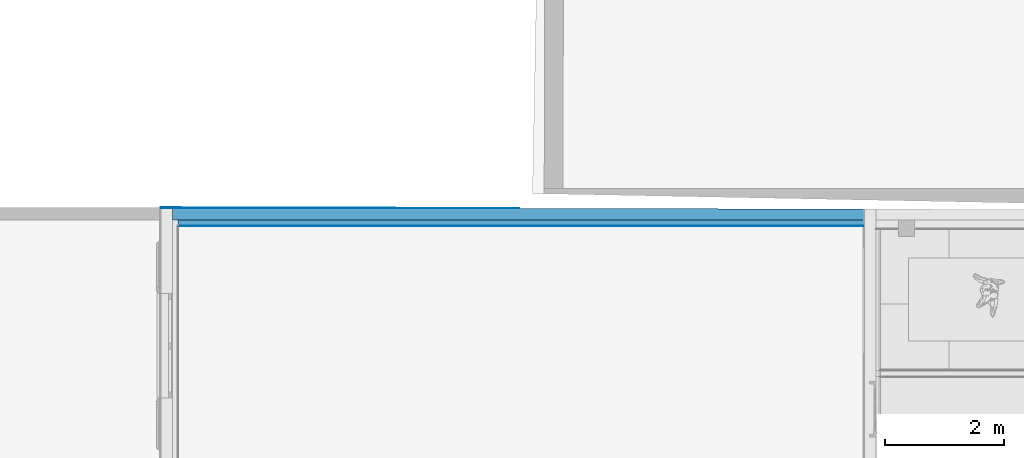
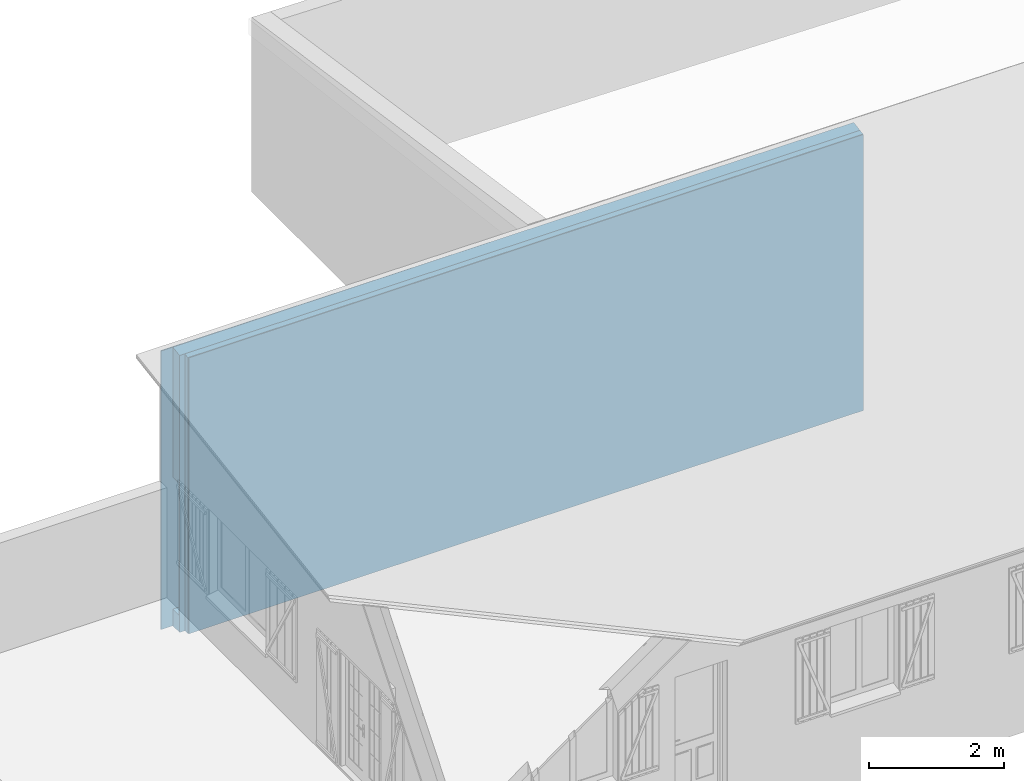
# One storey, part 8 of 24: 4 building element parts, 1 element without a shape of its own.
"""IFC2X3 building model written with IfcOpenShell, lengths in metres."""

from ifc_helpers import new_model, entity, si_unit, converted_unit, derived_unit, money_unit, direction, frame, origin_with_axes, place, context, subcontext, project, spatial, polyline, outline, extrude, boolean, faceted_brep, material, type_object, element, aggregate, save


model = new_model("IFC2X3")

# Units and contexts
model_context = context("Model", 3, precision=1e-05, world=origin_with_axes(), true_north=direction((0.0, 1.0)))
body_context = subcontext(model_context, "Body", "Model", "MODEL_VIEW")
ifc_project = project(units=[si_unit("LENGTHUNIT", "METRE"), si_unit("AREAUNIT", "SQUARE_METRE"), si_unit("VOLUMEUNIT", "CUBIC_METRE"), converted_unit("PLANEANGLEUNIT", "DEGREE", entity("IfcPlaneAngleMeasure", 0.0174532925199), si_unit("PLANEANGLEUNIT", "RADIAN"), dimensions=[0, 0, 0, 0, 0, 0, 0]), si_unit("SOLIDANGLEUNIT", "STERADIAN"), money_unit("CHF"), converted_unit("TIMEUNIT", "Year", entity("IfcTimeMeasure", 31556926.0), si_unit("TIMEUNIT", "SECOND"), dimensions=[0, 0, 1, 0, 0, 0, 0]), si_unit("MASSUNIT", "GRAM", prefix="KILO"), si_unit("THERMODYNAMICTEMPERATUREUNIT", "DEGREE_CELSIUS"), si_unit("LUMINOUSINTENSITYUNIT", "LUMEN"), si_unit("ENERGYUNIT", "JOULE", prefix="MEGA"), derived_unit("THERMALCONDUCTANCEUNIT", [(si_unit("POWERUNIT", "WATT"), 1), (si_unit("LENGTHUNIT", "METRE"), -1), (si_unit("THERMODYNAMICTEMPERATUREUNIT", "KELVIN"), -1)]), derived_unit("SPECIFICHEATCAPACITYUNIT", [(si_unit("ENERGYUNIT", "JOULE"), 1), (si_unit("MASSUNIT", "GRAM", prefix="KILO"), -1), (si_unit("THERMODYNAMICTEMPERATUREUNIT", "KELVIN"), -1)]), derived_unit("MASSDENSITYUNIT", [(si_unit("MASSUNIT", "GRAM", prefix="KILO"), 1), (si_unit("VOLUMEUNIT", "CUBIC_METRE"), -1)])], contexts=[model_context])

# Site, building, storey
site_placement = place(None, origin_with_axes())
site = spatial("IfcSite", under=ifc_project, at=site_placement, Name="Site", CompositionType="ELEMENT")
building_placement = place(site_placement, origin_with_axes())
building = spatial("IfcBuilding", under=site, at=building_placement, Name="Bâtiment", CompositionType="ELEMENT")
storey_placement = place(building_placement, origin_with_axes())
storey = spatial("IfcBuildingStorey", under=building, at=storey_placement, Name="Rez-de-chaussée", CompositionType="ELEMENT", Elevation=0.0)

# Wall, building element parts
wall_type = type_object("IfcWallType", Name="0.1 - Mur ext: revét ext + maçonnerie + doublage 10cm 315", PredefinedType="ELEMENTEDWALL")
wall_placement = place(storey_placement, frame((11.5671417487, 16.4079346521, -0.6), z_axis=(0.0, 0.0, 1.0), x_axis=(1.0, 0.0, 0.0)))
wall = element("IfcWall", 1, at=wall_placement, inside=storey, type_object=wall_type, Name="MUR_EXT-005", ObjectType="ELEMENTEDWALL")
ifc_material_1 = material(Name="Finition int - Plaque de plâtre")
building_element_part_1_placement = place(wall_placement, origin_with_axes())
building_element_part_1 = element("IfcBuildingElementPart", 2, at=building_element_part_1_placement, material=ifc_material_1, Name="Finition int - Plaque de plâtre", context=body_context, shape_type="CSG", body=[
    boolean("DIFFERENCE", boolean("DIFFERENCE", boolean("DIFFERENCE", boolean("DIFFERENCE", extrude(outline(polyline([(0.0, -0.315), (11.82, -0.315), (11.82, -0.305), (0.0, -0.305), (0.0, -0.315)])), origin_with_axes(), (0.0, 0.0, 1.0), 5.5967588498), faceted_brep([(11.82, -0.315, 4.9767999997), (11.82, -0.305, 4.9783999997), (11.82, -0.305, 5.5967588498), (11.82, -0.315, 5.5967588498), (0.315, -0.315, 4.9767999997), (0.315, -0.305, 4.9783999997), (0.315, -0.305, 0.0), (0.0, -0.305, 0.0), (0.0, -0.305, 5.5967588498), (0.0, -0.315, 5.5967588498), (0.0, -0.315, 0.0), (0.315, -0.315, 0.0)], [[[0, 1, 2, 3]], [[1, 0, 4, 5]], [[5, 6, 7, 8, 2, 1]], [[8, 9, 3, 2]], [[4, 0, 3, 9, 10, 11]], [[6, 5, 4, 11]], [[6, 11, 10, 7]], [[8, 7, 10, 9]]])), faceted_brep([(11.82, -0.305, 4.9783999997), (11.82, -0.215, 4.9927999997), (11.82, -0.215, 5.5967588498), (11.82, -0.305, 5.5967588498), (0.305, -0.305, 4.9783999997), (0.305, -0.215, 4.9927999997), (0.305, -0.215, 0.0), (0.0, -0.215, 0.0), (0.0, -0.215, 5.5967588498), (0.0, -0.305, 5.5967588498), (0.0, -0.305, 0.0), (0.305, -0.305, 0.0)], [[[0, 1, 2, 3]], [[1, 0, 4, 5]], [[5, 6, 7, 8, 2, 1]], [[8, 9, 3, 2]], [[4, 0, 3, 9, 10, 11]], [[6, 5, 4, 11]], [[6, 11, 10, 7]], [[8, 7, 10, 9]]])), faceted_brep([(11.82, -0.0284796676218, 5.02264325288), (11.82, -0.0284796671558, 0.0), (11.82, -0.015, 0.0), (11.82, -0.015, 5.5967588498), (11.82, -0.215, 5.5967588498), (11.82, -0.215, 4.9927999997), (6.03617069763, -0.015, 5.0247999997), (6.03617080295, -0.015, 0.0), (0.215, -0.015, 0.3), (0.215, -0.015, 0.0), (0.0, -0.015, 0.0), (0.0, -0.015, 5.5967588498), (0.215, -0.015, 5.0247999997), (0.215, -0.015, 2.68277264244), (0.414999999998, -0.015, 2.68277264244), (0.41499210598, -0.015, 0.3), (0.0, -0.215, 5.5967588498), (0.215, -0.215, 4.9927999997), (0.0, -0.215, 0.0), (0.215, -0.215, 0.0), (0.215, -0.194831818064, 0.3), (0.215, -0.194831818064, 2.68277264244), (0.414999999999, -0.194675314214, 2.68277264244), (0.414996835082, -0.194675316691, 0.3)], [[[0, 1, 2, 3, 4, 5]], [[1, 0, 6, 7]], [[1, 7, 2]], [[8, 9, 10, 11, 3, 2, 7, 6, 12, 13, 14, 15]], [[11, 16, 4, 3]], [[17, 5, 4, 16, 18, 19]], [[0, 5, 17, 12, 6]], [[13, 12, 17, 19, 9, 8, 20, 21]], [[9, 19, 18, 10]], [[11, 10, 18, 16]], [[13, 21, 22, 14]], [[14, 22, 23, 15]], [[15, 23, 20, 8]], [[22, 21, 20, 23]]])), faceted_brep([(0.015, -0.015, 5.0247999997), (6.03617069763, -0.015, 5.0247999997), (6.03617080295, -0.015, 0.0), (11.82, -0.015, 0.0), (11.82, -0.015, 5.5967588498), (0.0, -0.015, 5.5967588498), (0.0, -0.015, 0.0), (0.015, -0.015, 0.0), (0.015, -0.015, 0.3), (0.41499210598, -0.015, 0.3), (0.414999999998, -0.015, 2.68277264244), (0.015, -0.015, 2.68277264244), (0.015, -0.000967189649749, 5.02704524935), (0.015, -0.000967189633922, 0.0), (0.0, 0.0, 0.0), (11.82, 0.0, 0.0), (11.82, 0.0, 5.5967588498), (0.0, 0.0, 5.5967588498), (0.015, -0.0149882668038, 2.68277264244), (0.015, -0.0149882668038, 0.3), (0.414992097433, -0.014675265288, 0.3), (0.414999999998, -0.0146752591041, 2.68277264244)], [[[0, 1, 2, 3, 4, 5, 6, 7, 8, 9, 10, 11]], [[1, 0, 12]], [[13, 2, 1, 12]], [[13, 7, 6, 14, 15, 3, 2]], [[4, 3, 15, 16]], [[17, 5, 4, 16]], [[17, 14, 6, 5]], [[7, 13, 12, 0, 11, 18, 19, 8]], [[8, 19, 20, 9]], [[9, 20, 21, 10]], [[11, 10, 21, 18]], [[16, 15, 14, 17]], [[18, 21, 20, 19]]])),
])
ifc_material_2 = material(Name="Isolation - Laine de verre")
building_element_part_2_placement = place(wall_placement, origin_with_axes())
building_element_part_2 = element("IfcBuildingElementPart", 3, at=building_element_part_2_placement, material=ifc_material_2, Name="Isolation - Laine de verre", context=body_context, shape_type="CSG", body=[
    boolean("DIFFERENCE", boolean("DIFFERENCE", boolean("DIFFERENCE", boolean("DIFFERENCE", extrude(outline(polyline([(0.0, -0.305), (11.82, -0.305), (11.82, -0.215), (0.0, -0.215), (0.0, -0.305)])), origin_with_axes(), (0.0, 0.0, 1.0), 5.5967588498), faceted_brep([(11.82, -0.315, 4.9767999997), (11.82, -0.305, 4.9783999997), (11.82, -0.305, 5.5967588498), (11.82, -0.315, 5.5967588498), (0.315, -0.315, 4.9767999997), (0.315, -0.305, 4.9783999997), (0.315, -0.305, 0.0), (0.0, -0.305, 0.0), (0.0, -0.305, 5.5967588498), (0.0, -0.315, 5.5967588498), (0.0, -0.315, 0.0), (0.315, -0.315, 0.0)], [[[0, 1, 2, 3]], [[1, 0, 4, 5]], [[5, 6, 7, 8, 2, 1]], [[8, 9, 3, 2]], [[4, 0, 3, 9, 10, 11]], [[6, 5, 4, 11]], [[6, 11, 10, 7]], [[8, 7, 10, 9]]])), faceted_brep([(11.82, -0.305, 4.9783999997), (11.82, -0.215, 4.9927999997), (11.82, -0.215, 5.5967588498), (11.82, -0.305, 5.5967588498), (0.305, -0.305, 4.9783999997), (0.305, -0.215, 4.9927999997), (0.305, -0.215, 0.0), (0.0, -0.215, 0.0), (0.0, -0.215, 5.5967588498), (0.0, -0.305, 5.5967588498), (0.0, -0.305, 0.0), (0.305, -0.305, 0.0)], [[[0, 1, 2, 3]], [[1, 0, 4, 5]], [[5, 6, 7, 8, 2, 1]], [[8, 9, 3, 2]], [[4, 0, 3, 9, 10, 11]], [[6, 5, 4, 11]], [[6, 11, 10, 7]], [[8, 7, 10, 9]]])), faceted_brep([(11.82, -0.0284796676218, 5.02264325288), (11.82, -0.0284796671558, 0.0), (11.82, -0.015, 0.0), (11.82, -0.015, 5.5967588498), (11.82, -0.215, 5.5967588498), (11.82, -0.215, 4.9927999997), (6.03617069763, -0.015, 5.0247999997), (6.03617080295, -0.015, 0.0), (0.215, -0.015, 0.3), (0.215, -0.015, 0.0), (0.0, -0.015, 0.0), (0.0, -0.015, 5.5967588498), (0.215, -0.015, 5.0247999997), (0.215, -0.015, 2.68277264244), (0.414999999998, -0.015, 2.68277264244), (0.41499210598, -0.015, 0.3), (0.0, -0.215, 5.5967588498), (0.215, -0.215, 4.9927999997), (0.0, -0.215, 0.0), (0.215, -0.215, 0.0), (0.215, -0.194831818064, 0.3), (0.215, -0.194831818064, 2.68277264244), (0.414999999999, -0.194675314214, 2.68277264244), (0.414996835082, -0.194675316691, 0.3)], [[[0, 1, 2, 3, 4, 5]], [[1, 0, 6, 7]], [[1, 7, 2]], [[8, 9, 10, 11, 3, 2, 7, 6, 12, 13, 14, 15]], [[11, 16, 4, 3]], [[17, 5, 4, 16, 18, 19]], [[0, 5, 17, 12, 6]], [[13, 12, 17, 19, 9, 8, 20, 21]], [[9, 19, 18, 10]], [[11, 10, 18, 16]], [[13, 21, 22, 14]], [[14, 22, 23, 15]], [[15, 23, 20, 8]], [[22, 21, 20, 23]]])), faceted_brep([(0.015, -0.015, 5.0247999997), (6.03617069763, -0.015, 5.0247999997), (6.03617080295, -0.015, 0.0), (11.82, -0.015, 0.0), (11.82, -0.015, 5.5967588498), (0.0, -0.015, 5.5967588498), (0.0, -0.015, 0.0), (0.015, -0.015, 0.0), (0.015, -0.015, 0.3), (0.41499210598, -0.015, 0.3), (0.414999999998, -0.015, 2.68277264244), (0.015, -0.015, 2.68277264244), (0.015, -0.000967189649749, 5.02704524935), (0.015, -0.000967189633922, 0.0), (0.0, 0.0, 0.0), (11.82, 0.0, 0.0), (11.82, 0.0, 5.5967588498), (0.0, 0.0, 5.5967588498), (0.015, -0.0149882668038, 2.68277264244), (0.015, -0.0149882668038, 0.3), (0.414992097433, -0.014675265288, 0.3), (0.414999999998, -0.0146752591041, 2.68277264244)], [[[0, 1, 2, 3, 4, 5, 6, 7, 8, 9, 10, 11]], [[1, 0, 12]], [[13, 2, 1, 12]], [[13, 7, 6, 14, 15, 3, 2]], [[4, 3, 15, 16]], [[17, 5, 4, 16]], [[17, 14, 6, 5]], [[7, 13, 12, 0, 11, 18, 19, 8]], [[8, 19, 20, 9]], [[9, 20, 21, 10]], [[11, 10, 21, 18]], [[16, 15, 14, 17]], [[18, 21, 20, 19]]])),
])
ifc_material_3 = material(Name="Brique ciment (extérieur)")
building_element_part_3_placement = place(wall_placement, origin_with_axes())
building_element_part_3 = element("IfcBuildingElementPart", 4, at=building_element_part_3_placement, material=ifc_material_3, Name="Brique ciment (extérieur)", context=body_context, shape_type="CSG", body=[
    boolean("DIFFERENCE", boolean("DIFFERENCE", boolean("DIFFERENCE", boolean("DIFFERENCE", extrude(outline(polyline([(0.0, -0.215), (11.82, -0.215), (11.82, -0.015), (0.0, -0.015), (0.0, -0.215)])), origin_with_axes(), (0.0, 0.0, 1.0), 5.5967588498), faceted_brep([(11.82, -0.315, 4.9767999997), (11.82, -0.305, 4.9783999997), (11.82, -0.305, 5.5967588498), (11.82, -0.315, 5.5967588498), (0.315, -0.315, 4.9767999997), (0.315, -0.305, 4.9783999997), (0.315, -0.305, 0.0), (0.0, -0.305, 0.0), (0.0, -0.305, 5.5967588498), (0.0, -0.315, 5.5967588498), (0.0, -0.315, 0.0), (0.315, -0.315, 0.0)], [[[0, 1, 2, 3]], [[1, 0, 4, 5]], [[5, 6, 7, 8, 2, 1]], [[8, 9, 3, 2]], [[4, 0, 3, 9, 10, 11]], [[6, 5, 4, 11]], [[6, 11, 10, 7]], [[8, 7, 10, 9]]])), faceted_brep([(11.82, -0.305, 4.9783999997), (11.82, -0.215, 4.9927999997), (11.82, -0.215, 5.5967588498), (11.82, -0.305, 5.5967588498), (0.305, -0.305, 4.9783999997), (0.305, -0.215, 4.9927999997), (0.305, -0.215, 0.0), (0.0, -0.215, 0.0), (0.0, -0.215, 5.5967588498), (0.0, -0.305, 5.5967588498), (0.0, -0.305, 0.0), (0.305, -0.305, 0.0)], [[[0, 1, 2, 3]], [[1, 0, 4, 5]], [[5, 6, 7, 8, 2, 1]], [[8, 9, 3, 2]], [[4, 0, 3, 9, 10, 11]], [[6, 5, 4, 11]], [[6, 11, 10, 7]], [[8, 7, 10, 9]]])), faceted_brep([(11.82, -0.0284796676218, 5.02264325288), (11.82, -0.0284796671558, 0.0), (11.82, -0.015, 0.0), (11.82, -0.015, 5.5967588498), (11.82, -0.215, 5.5967588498), (11.82, -0.215, 4.9927999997), (6.03617069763, -0.015, 5.0247999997), (6.03617080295, -0.015, 0.0), (0.215, -0.015, 0.3), (0.215, -0.015, 0.0), (0.0, -0.015, 0.0), (0.0, -0.015, 5.5967588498), (0.215, -0.015, 5.0247999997), (0.215, -0.015, 2.68277264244), (0.414999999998, -0.015, 2.68277264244), (0.41499210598, -0.015, 0.3), (0.0, -0.215, 5.5967588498), (0.215, -0.215, 4.9927999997), (0.0, -0.215, 0.0), (0.215, -0.215, 0.0), (0.215, -0.194831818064, 0.3), (0.215, -0.194831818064, 2.68277264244), (0.414999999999, -0.194675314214, 2.68277264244), (0.414996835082, -0.194675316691, 0.3)], [[[0, 1, 2, 3, 4, 5]], [[1, 0, 6, 7]], [[1, 7, 2]], [[8, 9, 10, 11, 3, 2, 7, 6, 12, 13, 14, 15]], [[11, 16, 4, 3]], [[17, 5, 4, 16, 18, 19]], [[0, 5, 17, 12, 6]], [[13, 12, 17, 19, 9, 8, 20, 21]], [[9, 19, 18, 10]], [[11, 10, 18, 16]], [[13, 21, 22, 14]], [[14, 22, 23, 15]], [[15, 23, 20, 8]], [[22, 21, 20, 23]]])), faceted_brep([(0.015, -0.015, 5.0247999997), (6.03617069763, -0.015, 5.0247999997), (6.03617080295, -0.015, 0.0), (11.82, -0.015, 0.0), (11.82, -0.015, 5.5967588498), (0.0, -0.015, 5.5967588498), (0.0, -0.015, 0.0), (0.015, -0.015, 0.0), (0.015, -0.015, 0.3), (0.41499210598, -0.015, 0.3), (0.414999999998, -0.015, 2.68277264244), (0.015, -0.015, 2.68277264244), (0.015, -0.000967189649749, 5.02704524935), (0.015, -0.000967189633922, 0.0), (0.0, 0.0, 0.0), (11.82, 0.0, 0.0), (11.82, 0.0, 5.5967588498), (0.0, 0.0, 5.5967588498), (0.015, -0.0149882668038, 2.68277264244), (0.015, -0.0149882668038, 0.3), (0.414992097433, -0.014675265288, 0.3), (0.414999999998, -0.0146752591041, 2.68277264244)], [[[0, 1, 2, 3, 4, 5, 6, 7, 8, 9, 10, 11]], [[1, 0, 12]], [[13, 2, 1, 12]], [[13, 7, 6, 14, 15, 3, 2]], [[4, 3, 15, 16]], [[17, 5, 4, 16]], [[17, 14, 6, 5]], [[7, 13, 12, 0, 11, 18, 19, 8]], [[8, 19, 20, 9]], [[9, 20, 21, 10]], [[11, 10, 21, 18]], [[16, 15, 14, 17]], [[18, 21, 20, 19]]])),
])
ifc_material_4 = material(Name="Finition ext - Crépis")
building_element_part_4_placement = place(wall_placement, origin_with_axes())
building_element_part_4 = element("IfcBuildingElementPart", 5, at=building_element_part_4_placement, material=ifc_material_4, Name="Finition ext - Crépis", context=body_context, shape_type="CSG", body=[
    boolean("DIFFERENCE", boolean("DIFFERENCE", boolean("DIFFERENCE", boolean("DIFFERENCE", extrude(outline(polyline([(0.0, -0.015), (11.82, -0.015), (11.82, 0.0), (0.0, 0.0), (0.0, -0.015)])), origin_with_axes(), (0.0, 0.0, 1.0), 5.5967588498), faceted_brep([(11.82, -0.315, 4.9767999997), (11.82, -0.305, 4.9783999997), (11.82, -0.305, 5.5967588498), (11.82, -0.315, 5.5967588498), (0.315, -0.315, 4.9767999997), (0.315, -0.305, 4.9783999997), (0.315, -0.305, 0.0), (0.0, -0.305, 0.0), (0.0, -0.305, 5.5967588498), (0.0, -0.315, 5.5967588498), (0.0, -0.315, 0.0), (0.315, -0.315, 0.0)], [[[0, 1, 2, 3]], [[1, 0, 4, 5]], [[5, 6, 7, 8, 2, 1]], [[8, 9, 3, 2]], [[4, 0, 3, 9, 10, 11]], [[6, 5, 4, 11]], [[6, 11, 10, 7]], [[8, 7, 10, 9]]])), faceted_brep([(11.82, -0.305, 4.9783999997), (11.82, -0.215, 4.9927999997), (11.82, -0.215, 5.5967588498), (11.82, -0.305, 5.5967588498), (0.305, -0.305, 4.9783999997), (0.305, -0.215, 4.9927999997), (0.305, -0.215, 0.0), (0.0, -0.215, 0.0), (0.0, -0.215, 5.5967588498), (0.0, -0.305, 5.5967588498), (0.0, -0.305, 0.0), (0.305, -0.305, 0.0)], [[[0, 1, 2, 3]], [[1, 0, 4, 5]], [[5, 6, 7, 8, 2, 1]], [[8, 9, 3, 2]], [[4, 0, 3, 9, 10, 11]], [[6, 5, 4, 11]], [[6, 11, 10, 7]], [[8, 7, 10, 9]]])), faceted_brep([(11.82, -0.0284796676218, 5.02264325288), (11.82, -0.0284796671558, 0.0), (11.82, -0.015, 0.0), (11.82, -0.015, 5.5967588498), (11.82, -0.215, 5.5967588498), (11.82, -0.215, 4.9927999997), (6.03617069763, -0.015, 5.0247999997), (6.03617080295, -0.015, 0.0), (0.215, -0.015, 0.3), (0.215, -0.015, 0.0), (0.0, -0.015, 0.0), (0.0, -0.015, 5.5967588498), (0.215, -0.015, 5.0247999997), (0.215, -0.015, 2.68277264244), (0.414999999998, -0.015, 2.68277264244), (0.41499210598, -0.015, 0.3), (0.0, -0.215, 5.5967588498), (0.215, -0.215, 4.9927999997), (0.0, -0.215, 0.0), (0.215, -0.215, 0.0), (0.215, -0.194831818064, 0.3), (0.215, -0.194831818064, 2.68277264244), (0.414999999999, -0.194675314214, 2.68277264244), (0.414996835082, -0.194675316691, 0.3)], [[[0, 1, 2, 3, 4, 5]], [[1, 0, 6, 7]], [[1, 7, 2]], [[8, 9, 10, 11, 3, 2, 7, 6, 12, 13, 14, 15]], [[11, 16, 4, 3]], [[17, 5, 4, 16, 18, 19]], [[0, 5, 17, 12, 6]], [[13, 12, 17, 19, 9, 8, 20, 21]], [[9, 19, 18, 10]], [[11, 10, 18, 16]], [[13, 21, 22, 14]], [[14, 22, 23, 15]], [[15, 23, 20, 8]], [[22, 21, 20, 23]]])), faceted_brep([(0.015, -0.015, 5.0247999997), (6.03617069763, -0.015, 5.0247999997), (6.03617080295, -0.015, 0.0), (11.82, -0.015, 0.0), (11.82, -0.015, 5.5967588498), (0.0, -0.015, 5.5967588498), (0.0, -0.015, 0.0), (0.015, -0.015, 0.0), (0.015, -0.015, 0.3), (0.41499210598, -0.015, 0.3), (0.414999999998, -0.015, 2.68277264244), (0.015, -0.015, 2.68277264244), (0.015, -0.000967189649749, 5.02704524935), (0.015, -0.000967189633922, 0.0), (0.0, 0.0, 0.0), (11.82, 0.0, 0.0), (11.82, 0.0, 5.5967588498), (0.0, 0.0, 5.5967588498), (0.015, -0.0149882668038, 2.68277264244), (0.015, -0.0149882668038, 0.3), (0.414992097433, -0.014675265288, 0.3), (0.414999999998, -0.0146752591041, 2.68277264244)], [[[0, 1, 2, 3, 4, 5, 6, 7, 8, 9, 10, 11]], [[1, 0, 12]], [[13, 2, 1, 12]], [[13, 7, 6, 14, 15, 3, 2]], [[4, 3, 15, 16]], [[17, 5, 4, 16]], [[17, 14, 6, 5]], [[7, 13, 12, 0, 11, 18, 19, 8]], [[8, 19, 20, 9]], [[9, 20, 21, 10]], [[11, 10, 21, 18]], [[16, 15, 14, 17]], [[18, 21, 20, 19]]])),
])
aggregate(wall, [building_element_part_1, building_element_part_2, building_element_part_3, building_element_part_4])

save(model, "model.ifc")
